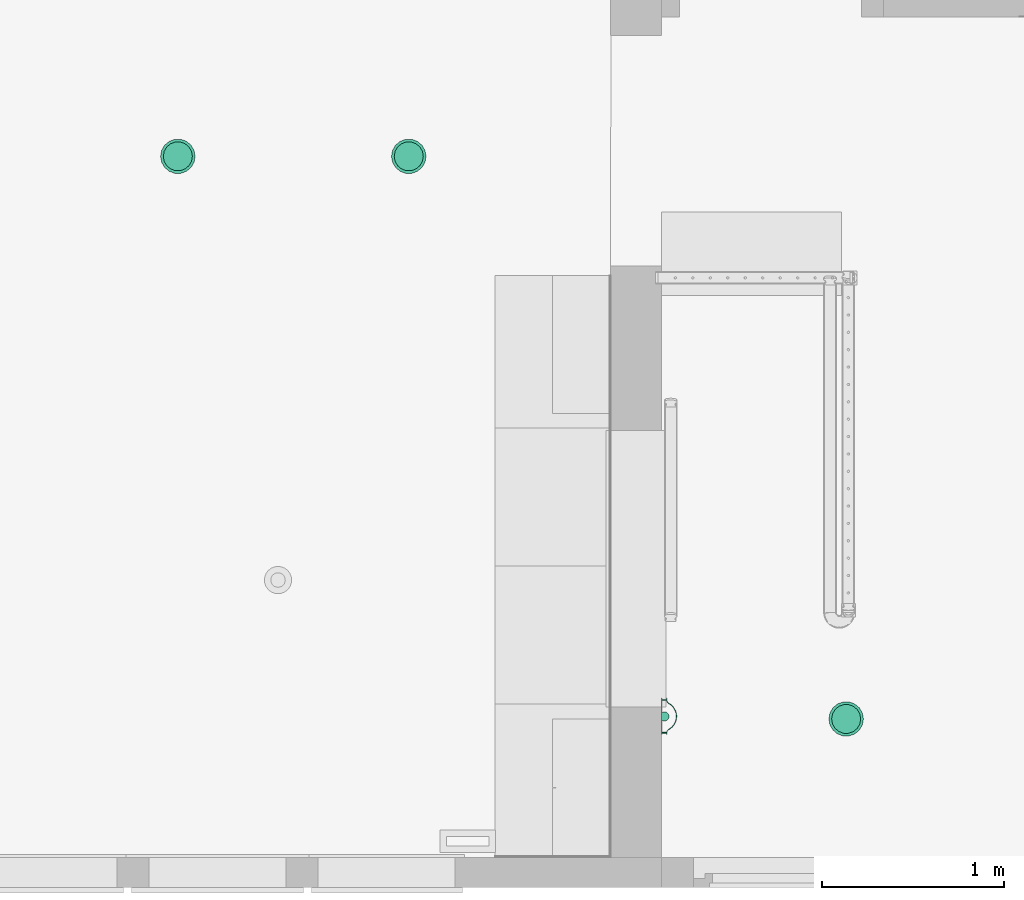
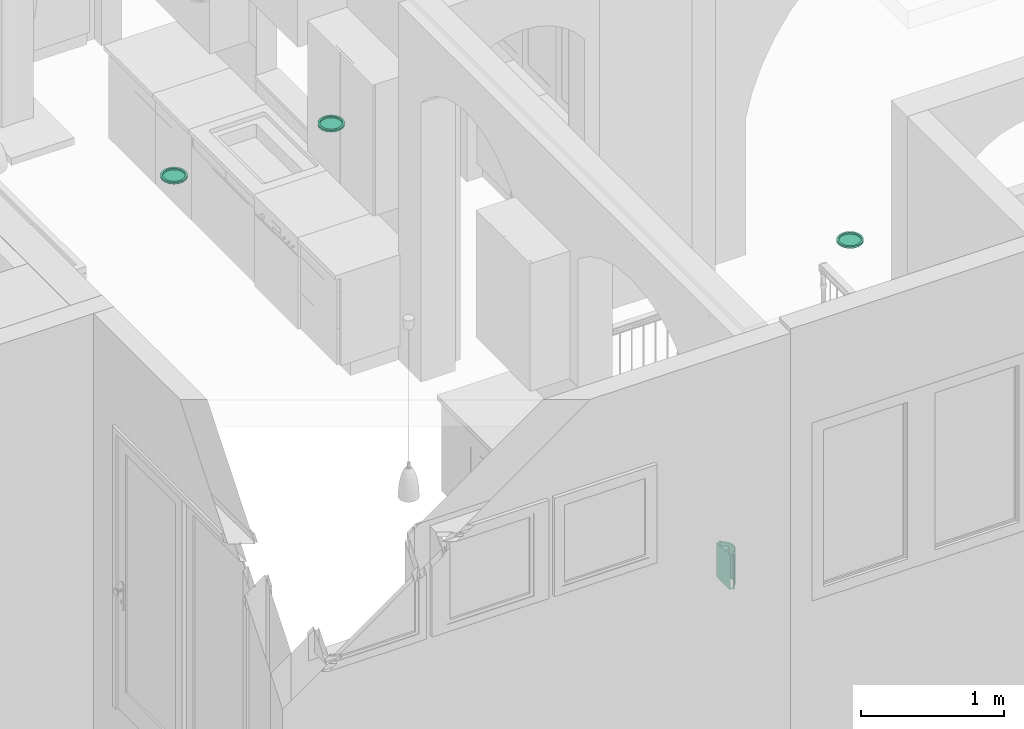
# One storey, part 46 of 77: 4 flow terminals.
"""IFC2X3 building model written with IfcOpenShell, lengths in inches."""

from ifc_helpers import new_model, entity, si_unit, converted_unit, derived_unit, money_unit, direction, frame, origin_with_axes, place, context, subcontext, project, spatial, open_shell, faceted_brep, surface_model, source, transform, mapped, type_object, element, save


model = new_model("IFC2X3")

# Units and contexts
model_context = context("Model", 3, precision=0.000393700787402, world=origin_with_axes(), true_north=direction((0.0, 1.0)))
body_context = subcontext(model_context, "Body", "Model", "MODEL_VIEW")
ifc_project = project(units=[converted_unit("LENGTHUNIT", "INCH", entity("IfcPositiveLengthMeasure", 0.0254), si_unit("LENGTHUNIT", "METRE"), dimensions=[1, 0, 0, 0, 0, 0, 0]), converted_unit("AREAUNIT", "SQUARE_FOOT", entity("IfcPositiveLengthMeasure", 0.09290304), si_unit("AREAUNIT", "SQUARE_METRE"), dimensions=[2, 0, 0, 0, 0, 0, 0]), si_unit("PLANEANGLEUNIT", "RADIAN"), si_unit("SOLIDANGLEUNIT", "STERADIAN"), money_unit("USD"), converted_unit("TIMEUNIT", "Year", entity("IfcTimeMeasure", 31556926.0), si_unit("TIMEUNIT", "SECOND"), dimensions=[0, 0, 1, 0, 0, 0, 0]), si_unit("MASSUNIT", "GRAM", prefix="KILO"), si_unit("THERMODYNAMICTEMPERATUREUNIT", "DEGREE_CELSIUS"), si_unit("LUMINOUSINTENSITYUNIT", "LUMEN"), si_unit("ENERGYUNIT", "JOULE", prefix="MEGA"), derived_unit("THERMALCONDUCTANCEUNIT", [(si_unit("POWERUNIT", "WATT"), 1), (si_unit("LENGTHUNIT", "METRE"), -1), (si_unit("THERMODYNAMICTEMPERATUREUNIT", "KELVIN"), -1)]), derived_unit("SPECIFICHEATCAPACITYUNIT", [(si_unit("ENERGYUNIT", "JOULE"), 1), (si_unit("MASSUNIT", "GRAM", prefix="KILO"), -1), (si_unit("THERMODYNAMICTEMPERATUREUNIT", "KELVIN"), -1)]), derived_unit("MASSDENSITYUNIT", [(si_unit("MASSUNIT", "GRAM", prefix="KILO"), 1), (si_unit("VOLUMEUNIT", "CUBIC_METRE"), -1)])], contexts=[model_context])

# Site, building, storey
site_placement = place(None, origin_with_axes())
site = spatial("IfcSite", under=ifc_project, at=site_placement, Name="Site", CompositionType="ELEMENT")
building_placement = place(site_placement, origin_with_axes())
building = spatial("IfcBuilding", under=site, at=building_placement, Name="Building", CompositionType="ELEMENT")
storey_placement = place(building_placement, frame((0.0, 0.0, 127.952755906), z_axis=(0.0, 0.0, 1.0), x_axis=(1.0, 0.0, 0.0)))
storey = spatial("IfcBuildingStorey", under=building, at=storey_placement, Name="Second Floor", CompositionType="ELEMENT", Elevation=127.953)

# Flow terminals
light_fixture_type_1 = type_object("IfcLightFixtureType", Name="Recessed Spot 25", PredefinedType="NOTDEFINED")
shared_shape_1 = source(origin_with_axes(), body_context, "Body", "SurfaceModel", [
    faceted_brep([(3.74015748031, 0.0, -0.590551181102), (3.51459838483, 1.27920919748, -0.590551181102), (3.51459838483, 1.27920919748, 0.0), (3.74015748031, 0.0, 0.0), (3.51459838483, -1.27920919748, -0.590551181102), (2.86512685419, -2.40412688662, -0.590551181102), (1.87007874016, -3.23907139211, -0.590551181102), (0.649471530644, -3.6833360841, -0.590551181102), (-0.649471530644, -3.6833360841, -0.590551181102), (-1.87007874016, -3.23907139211, -0.590551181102), (-2.86512685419, -2.40412688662, -0.590551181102), (-3.51459838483, -1.27920919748, -0.590551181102), (-3.74015748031, 0.0, -0.590551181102), (-3.51459838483, 1.27920919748, -0.590551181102), (-2.86512685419, 2.40412688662, -0.590551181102), (-1.87007874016, 3.23907139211, -0.590551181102), (-0.649471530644, 3.6833360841, -0.590551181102), (0.649471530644, 3.6833360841, -0.590551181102), (1.87007874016, 3.23907139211, -0.590551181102), (2.86512685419, 2.40412688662, -0.590551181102), (3.14960629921, 0.0, -0.590551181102), (2.95966179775, 1.07722879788, -0.590551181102), (2.41273840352, 2.02452790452, -0.590551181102), (1.57480314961, 2.72763906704, -0.590551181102), (0.546923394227, 3.1017567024, -0.590551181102), (-0.546923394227, 3.1017567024, -0.590551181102), (-1.57480314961, 2.72763906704, -0.590551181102), (-2.41273840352, 2.02452790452, -0.590551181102), (-2.95966179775, 1.07722879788, -0.590551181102), (-3.14960629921, 0.0, -0.590551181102), (-2.95966179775, -1.07722879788, -0.590551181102), (-2.41273840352, -2.02452790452, -0.590551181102), (-1.57480314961, -2.72763906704, -0.590551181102), (-0.546923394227, -3.1017567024, -0.590551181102), (0.546923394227, -3.1017567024, -0.590551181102), (1.57480314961, -2.72763906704, -0.590551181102), (2.41273840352, -2.02452790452, -0.590551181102), (2.95966179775, -1.07722879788, -0.590551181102), (2.86512685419, 2.40412688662, 0.0), (1.87007874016, 3.23907139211, 0.0), (0.649471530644, 3.6833360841, 0.0), (-0.649471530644, 3.6833360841, 0.0), (-1.87007874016, 3.23907139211, 0.0), (-2.86512685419, 2.40412688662, 0.0), (-3.51459838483, 1.27920919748, 0.0), (-3.74015748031, 0.0, 0.0), (-3.51459838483, -1.27920919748, 0.0), (-2.86512685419, -2.40412688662, 0.0), (-1.87007874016, -3.23907139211, 0.0), (-0.649471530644, -3.6833360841, 0.0), (0.649471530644, -3.6833360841, 0.0), (1.87007874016, -3.23907139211, 0.0), (2.86512685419, -2.40412688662, 0.0), (3.51459838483, -1.27920919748, 0.0), (3.14960629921, 0.0, 0.0), (2.95966179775, -1.07722879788, 0.0), (2.41273840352, -2.02452790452, 0.0), (1.57480314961, -2.72763906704, 0.0), (0.546923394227, -3.1017567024, 0.0), (-0.546923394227, -3.1017567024, 0.0), (-1.57480314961, -2.72763906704, 0.0), (-2.41273840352, -2.02452790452, 0.0), (-2.95966179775, -1.07722879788, 0.0), (-3.14960629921, 0.0, 0.0), (-2.95966179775, 1.07722879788, 0.0), (-2.41273840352, 2.02452790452, 0.0), (-1.57480314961, 2.72763906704, 0.0), (-0.546923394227, 3.1017567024, 0.0), (0.546923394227, 3.1017567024, 0.0), (1.57480314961, 2.72763906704, 0.0), (2.41273840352, 2.02452790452, 0.0), (2.95966179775, 1.07722879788, 0.0)], [[[0, 1, 2, 3]], [[0, 4, 5, 6, 7, 8, 9, 10, 11, 12, 13, 14, 15, 16, 17, 18, 19, 1], [20, 21, 22, 23, 24, 25, 26, 27, 28, 29, 30, 31, 32, 33, 34, 35, 36, 37]], [[1, 19, 38, 2]], [[3, 2, 38, 39, 40, 41, 42, 43, 44, 45, 46, 47, 48, 49, 50, 51, 52, 53], [54, 55, 56, 57, 58, 59, 60, 61, 62, 63, 64, 65, 66, 67, 68, 69, 70, 71]], [[4, 0, 3, 53]], [[5, 4, 53, 52]], [[6, 5, 52, 51]], [[7, 6, 51, 50]], [[8, 7, 50, 49]], [[9, 8, 49, 48]], [[10, 9, 48, 47]], [[11, 10, 47, 46]], [[12, 11, 46, 45]], [[13, 12, 45, 44]], [[14, 13, 44, 43]], [[15, 14, 43, 42]], [[16, 15, 42, 41]], [[17, 16, 41, 40]], [[18, 17, 40, 39]], [[19, 18, 39, 38]], [[21, 20, 54, 71]], [[22, 21, 71, 70]], [[23, 22, 70, 69]], [[24, 23, 69, 68]], [[25, 24, 68, 67]], [[26, 25, 67, 66]], [[27, 26, 66, 65]], [[28, 27, 65, 64]], [[29, 28, 64, 63]], [[30, 29, 63, 62]], [[31, 30, 62, 61]], [[32, 31, 61, 60]], [[33, 32, 60, 59]], [[34, 33, 59, 58]], [[35, 34, 58, 57]], [[36, 35, 57, 56]], [[37, 36, 56, 55]], [[20, 37, 55, 54]]]),
    surface_model("IfcShellBasedSurfaceModel", [(3.14960629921, 0.0, -0.527559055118), (2.95966179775, -1.07722879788, -0.527559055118), (2.41273840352, -2.02452790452, -0.527559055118), (1.57480314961, -2.72763906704, -0.527559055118), (0.546923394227, -3.1017567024, -0.527559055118), (-0.546923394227, -3.1017567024, -0.527559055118), (-1.57480314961, -2.72763906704, -0.527559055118), (-2.41273840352, -2.02452790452, -0.527559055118), (-2.95966179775, -1.07722879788, -0.527559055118), (-3.14960629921, 0.0, -0.527559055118), (-2.95966179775, 1.07722879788, -0.527559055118), (-2.41273840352, 2.02452790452, -0.527559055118), (-1.57480314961, 2.72763906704, -0.527559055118), (-0.546923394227, 3.1017567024, -0.527559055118), (0.546923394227, 3.1017567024, -0.527559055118), (1.57480314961, 2.72763906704, -0.527559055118), (2.41273840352, 2.02452790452, -0.527559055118), (2.95966179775, 1.07722879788, -0.527559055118)], [open_shell([[[0, 1, 2, 3, 4, 5, 6, 7, 8, 9, 10, 11, 12, 13, 14, 15, 16, 17]]])]),
])
for number, where, z_axis, x_axis, name in (
    (1, (589.239523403, 171.197689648, 118.503937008), (0.0, 0.0, 1.0), (1.0, 0.0, 0.0), "L-03"),
    (2, (683.950273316, 49.3756762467, 120.094488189), (0.0, 0.0, 1.0), (1.0, 0.0, 0.0), "L-03"),
    (3, (539.239523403, 171.197689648, 118.503937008), (0.0, 0.0, 1.0), (1.0, 0.0, 0.0), "L-03"),
):
    element("IfcFlowTerminal", number, at=place(storey_placement, frame(where, z_axis=z_axis, x_axis=x_axis)), inside=storey, type_object=light_fixture_type_1, Name=name, context=body_context, shape_type="MappedRepresentation", body=[
        mapped(shared_shape_1, transform((0.0, 0.0, 0.0))),
    ])
light_fixture_type_2 = type_object("IfcLightFixtureType", Name="Wall Lamp 25", PredefinedType="NOTDEFINED")
shared_shape_2 = source(origin_with_axes(), body_context, "Body", "Brep", [
    faceted_brep([(-3.93700787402, -1.06299212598, 0.0), (-3.93700787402, -1.06299212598, 11.811023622), (-3.59199112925, -1.06314352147, 11.811023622), (-3.59199112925, -1.06314352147, 0.0), (-3.93700787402, -1.1811023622, 0.0), (-3.93700787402, -1.1811023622, 11.811023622), (-3.54330708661, -1.1811023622, 11.811023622), (-3.38969265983, -1.19623206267, 11.811023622), (-3.24198154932, -1.24103973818, 11.811023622), (-3.10585021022, -1.31380345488, 11.811023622), (-2.98653009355, -1.41172694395, 11.811023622), (-2.66966529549, -1.94556474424, 11.811023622), (-2.25851711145, -2.41069189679, 11.811023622), (-1.76760587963, -2.7906817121, 11.811023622), (-1.2142688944, -3.0721142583, 11.811023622), (-0.618048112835, -3.24505030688, 11.811023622), (0.0, -3.30338235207, 11.811023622), (0.0, -3.14960629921, 11.811023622), (-0.56588522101, -3.09835339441, 11.811023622), (-1.11335337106, -2.94626273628, 11.811023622), (-1.6245867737, -2.6982842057, 11.811023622), (-2.0829470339, -2.3624884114, 11.811023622), (-2.47351654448, -1.94980402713, 11.811023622), (-2.78358398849, -1.47366211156, 11.811023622), (-2.90306916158, -1.32652027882, 11.811023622), (-3.0505358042, -1.20743621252, 11.811023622), (-3.21953891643, -1.12161445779, 11.811023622), (-3.40269225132, -1.07280583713, 11.811023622), (-3.40269225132, -1.07280583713, 0.0), (-3.21953891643, -1.12161445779, 0.0), (-3.0505358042, -1.20743621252, 0.0), (-2.90306916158, -1.32652027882, 0.0), (-2.78358398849, -1.47366211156, 0.0), (-2.47351654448, -1.94980402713, 0.0), (-2.0829470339, -2.3624884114, 0.0), (-1.6245867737, -2.6982842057, 0.0), (-1.11335337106, -2.94626273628, 0.0), (-0.56588522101, -3.09835339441, 0.0), (0.0, -3.14960629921, 0.0), (0.0, -3.30338235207, 0.0), (-0.618048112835, -3.24505030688, 0.0), (-1.2142688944, -3.0721142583, 0.0), (-1.76760587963, -2.7906817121, 0.0), (-2.25851711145, -2.41069189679, 0.0), (-2.66966529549, -1.94556474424, 0.0), (-2.98653009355, -1.41172694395, 0.0), (-3.10585021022, -1.31380345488, 0.0), (-3.24198154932, -1.24103973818, 0.0), (-3.38969265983, -1.19623206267, 0.0), (-3.54330708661, -1.1811023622, 0.0)], [[[0, 1, 2, 3]], [[4, 5, 1, 0]], [[1, 5, 6, 7, 8, 9, 10, 11, 12, 13, 14, 15, 16, 17, 18, 19, 20, 21, 22, 23, 24, 25, 26, 27, 2]], [[3, 2, 27, 28]], [[0, 3, 28, 29, 30, 31, 32, 33, 34, 35, 36, 37, 38, 39, 40, 41, 42, 43, 44, 45, 46, 47, 48, 49, 4]], [[49, 6, 5, 4]], [[48, 7, 6, 49]], [[47, 8, 7, 48]], [[46, 9, 8, 47]], [[45, 10, 9, 46]], [[44, 11, 10, 45]], [[43, 12, 11, 44]], [[42, 13, 12, 43]], [[41, 14, 13, 42]], [[40, 15, 14, 41]], [[39, 16, 15, 40]], [[38, 17, 16, 39]], [[37, 18, 17, 38]], [[36, 19, 18, 37]], [[35, 20, 19, 36]], [[34, 21, 20, 35]], [[33, 22, 21, 34]], [[32, 23, 22, 33]], [[31, 24, 23, 32]], [[30, 25, 24, 31]], [[29, 26, 25, 30]], [[28, 27, 26, 29]]]),
    faceted_brep([(3.93700787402, -1.06299212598, 0.0), (3.59199112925, -1.06314352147, 0.0), (3.59199112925, -1.06314352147, 11.811023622), (3.93700787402, -1.06299212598, 11.811023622), (3.93700787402, -1.1811023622, 0.0), (3.54330708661, -1.1811023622, 0.0), (3.38969265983, -1.19623206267, 0.0), (3.24198154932, -1.24103973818, 0.0), (3.10585021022, -1.31380345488, 0.0), (2.98653009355, -1.41172694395, 0.0), (2.66966529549, -1.94556474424, 0.0), (2.25851711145, -2.41069189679, 0.0), (1.76760587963, -2.7906817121, 0.0), (1.2142688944, -3.0721142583, 0.0), (0.618048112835, -3.24505030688, 0.0), (0.0, -3.30338235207, 0.0), (0.0, -3.14960629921, 0.0), (0.56588522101, -3.09835339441, 0.0), (1.11335337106, -2.94626273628, 0.0), (1.6245867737, -2.6982842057, 0.0), (2.0829470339, -2.3624884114, 0.0), (2.47351654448, -1.94980402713, 0.0), (2.78358398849, -1.47366211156, 0.0), (2.90306916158, -1.32652027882, 0.0), (3.0505358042, -1.20743621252, 0.0), (3.21953891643, -1.12161445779, 0.0), (3.40269225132, -1.07280583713, 0.0), (3.40269225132, -1.07280583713, 11.811023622), (3.21953891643, -1.12161445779, 11.811023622), (3.0505358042, -1.20743621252, 11.811023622), (2.90306916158, -1.32652027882, 11.811023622), (2.78358398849, -1.47366211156, 11.811023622), (2.47351654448, -1.94980402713, 11.811023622), (2.0829470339, -2.3624884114, 11.811023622), (1.6245867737, -2.6982842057, 11.811023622), (1.11335337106, -2.94626273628, 11.811023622), (0.56588522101, -3.09835339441, 11.811023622), (0.0, -3.14960629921, 11.811023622), (0.0, -3.30338235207, 11.811023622), (0.618048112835, -3.24505030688, 11.811023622), (1.2142688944, -3.0721142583, 11.811023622), (1.76760587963, -2.7906817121, 11.811023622), (2.25851711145, -2.41069189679, 11.811023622), (2.66966529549, -1.94556474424, 11.811023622), (2.98653009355, -1.41172694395, 11.811023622), (3.10585021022, -1.31380345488, 11.811023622), (3.24198154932, -1.24103973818, 11.811023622), (3.38969265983, -1.19623206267, 11.811023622), (3.54330708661, -1.1811023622, 11.811023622), (3.93700787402, -1.1811023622, 11.811023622)], [[[0, 1, 2, 3]], [[0, 4, 5, 6, 7, 8, 9, 10, 11, 12, 13, 14, 15, 16, 17, 18, 19, 20, 21, 22, 23, 24, 25, 26, 1]], [[1, 26, 27, 2]], [[3, 2, 27, 28, 29, 30, 31, 32, 33, 34, 35, 36, 37, 38, 39, 40, 41, 42, 43, 44, 45, 46, 47, 48, 49]], [[4, 0, 3, 49]], [[5, 4, 49, 48]], [[6, 5, 48, 47]], [[7, 6, 47, 46]], [[8, 7, 46, 45]], [[9, 8, 45, 44]], [[10, 9, 44, 43]], [[11, 10, 43, 42]], [[12, 11, 42, 41]], [[13, 12, 41, 40]], [[14, 13, 40, 39]], [[15, 14, 39, 38]], [[16, 15, 38, 37]], [[17, 16, 37, 36]], [[18, 17, 36, 35]], [[19, 18, 35, 34]], [[20, 19, 34, 33]], [[21, 20, 33, 32]], [[22, 21, 32, 31]], [[23, 22, 31, 30]], [[24, 23, 30, 29]], [[25, 24, 29, 28]], [[26, 25, 28, 27]]]),
    faceted_brep([(-3.14960629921, 0.0, 0.0), (3.14960629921, 0.0, 0.0), (3.14960629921, -0.0393700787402, 0.0), (-3.14960629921, -0.0393700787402, 0.0), (-3.303220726, 0.0, 0.0151297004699), (-3.45093183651, 0.0, 0.0599373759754), (-3.58706317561, 0.0, 0.132701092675), (-3.70638329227, 0.0, 0.230624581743), (-3.80430678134, 0.0, 0.34994469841), (-3.87707049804, 0.0, 0.486076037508), (-3.92187817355, 0.0, 0.633787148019), (-3.93700787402, 0.0, 0.787401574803), (-3.93700787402, 0.0, 11.0236220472), (-3.92187817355, 0.0, 11.177236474), (-3.87707049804, 0.0, 11.3249475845), (-3.80430678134, 0.0, 11.4610789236), (-3.70638329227, 0.0, 11.5803990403), (-3.58706317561, 0.0, 11.6783225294), (-3.45093183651, 0.0, 11.7510862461), (-3.303220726, 0.0, 11.7958939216), (-3.14960629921, 0.0, 11.811023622), (3.14960629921, 0.0, 11.811023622), (3.303220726, 0.0, 11.7958939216), (3.45093183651, 0.0, 11.7510862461), (3.58706317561, 0.0, 11.6783225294), (3.70638329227, 0.0, 11.5803990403), (3.80430678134, 0.0, 11.4610789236), (3.87707049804, 0.0, 11.3249475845), (3.92187817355, 0.0, 11.177236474), (3.93700787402, 0.0, 11.0236220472), (3.93700787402, 0.0, 0.787401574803), (3.92187817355, 0.0, 0.633787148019), (3.87707049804, 0.0, 0.486076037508), (3.80430678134, 0.0, 0.34994469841), (3.70638329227, 0.0, 0.230624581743), (3.58706317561, 0.0, 0.132701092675), (3.45093183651, 0.0, 0.0599373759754), (3.303220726, 0.0, 0.0151297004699), (3.303220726, -0.0393700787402, 0.0151297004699), (3.45093183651, -0.0393700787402, 0.0599373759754), (3.58706317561, -0.0393700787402, 0.132701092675), (3.70638329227, -0.0393700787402, 0.230624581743), (3.80430678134, -0.0393700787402, 0.34994469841), (3.87707049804, -0.0393700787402, 0.486076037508), (3.92187817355, -0.0393700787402, 0.633787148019), (3.93700787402, -0.0393700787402, 0.787401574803), (3.93700787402, -0.0393700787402, 11.0236220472), (3.92187817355, -0.0393700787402, 11.177236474), (3.87707049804, -0.0393700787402, 11.3249475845), (3.80430678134, -0.0393700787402, 11.4610789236), (3.70638329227, -0.0393700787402, 11.5803990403), (3.58706317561, -0.0393700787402, 11.6783225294), (3.45093183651, -0.0393700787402, 11.7510862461), (3.303220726, -0.0393700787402, 11.7958939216), (3.14960629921, -0.0393700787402, 11.811023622), (-3.14960629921, -0.0393700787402, 11.811023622), (-3.303220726, -0.0393700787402, 11.7958939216), (-3.45093183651, -0.0393700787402, 11.7510862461), (-3.58706317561, -0.0393700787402, 11.6783225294), (-3.70638329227, -0.0393700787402, 11.5803990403), (-3.80430678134, -0.0393700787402, 11.4610789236), (-3.87707049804, -0.0393700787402, 11.3249475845), (-3.92187817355, -0.0393700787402, 11.177236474), (-3.93700787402, -0.0393700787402, 11.0236220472), (-3.93700787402, -0.0393700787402, 0.787401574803), (-3.92187817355, -0.0393700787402, 0.633787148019), (-3.87707049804, -0.0393700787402, 0.486076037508), (-3.80430678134, -0.0393700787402, 0.34994469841), (-3.70638329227, -0.0393700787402, 0.230624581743), (-3.58706317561, -0.0393700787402, 0.132701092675), (-3.45093183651, -0.0393700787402, 0.0599373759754), (-3.303220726, -0.0393700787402, 0.0151297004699)], [[[0, 1, 2, 3]], [[0, 4, 5, 6, 7, 8, 9, 10, 11, 12, 13, 14, 15, 16, 17, 18, 19, 20, 21, 22, 23, 24, 25, 26, 27, 28, 29, 30, 31, 32, 33, 34, 35, 36, 37, 1]], [[1, 37, 38, 2]], [[3, 2, 38, 39, 40, 41, 42, 43, 44, 45, 46, 47, 48, 49, 50, 51, 52, 53, 54, 55, 56, 57, 58, 59, 60, 61, 62, 63, 64, 65, 66, 67, 68, 69, 70, 71]], [[4, 0, 3, 71]], [[5, 4, 71, 70]], [[6, 5, 70, 69]], [[7, 6, 69, 68]], [[8, 7, 68, 67]], [[9, 8, 67, 66]], [[10, 9, 66, 65]], [[11, 10, 65, 64]], [[12, 11, 64, 63]], [[13, 12, 63, 62]], [[14, 13, 62, 61]], [[15, 14, 61, 60]], [[16, 15, 60, 59]], [[17, 16, 59, 58]], [[18, 17, 58, 57]], [[19, 18, 57, 56]], [[20, 19, 56, 55]], [[21, 20, 55, 54]], [[22, 21, 54, 53]], [[23, 22, 53, 52]], [[24, 23, 52, 51]], [[25, 24, 51, 50]], [[26, 25, 50, 49]], [[27, 26, 49, 48]], [[28, 27, 48, 47]], [[29, 28, 47, 46]], [[30, 29, 46, 45]], [[31, 30, 45, 44]], [[32, 31, 44, 43]], [[33, 32, 43, 42]], [[34, 33, 42, 41]], [[35, 34, 41, 40]], [[36, 35, 40, 39]], [[37, 36, 39, 38]]]),
    faceted_brep([(-3.66141732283, -0.0393700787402, 0.393700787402), (-3.66141732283, -1.22047244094, 0.393700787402), (-3.60236220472, -1.22047244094, 0.495987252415), (-3.60236220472, -0.0393700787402, 0.495987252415), (-3.60236220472, -0.0393700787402, 0.291414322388), (-3.60236220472, -1.22047244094, 0.291414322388), (-3.4842519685, -1.22047244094, 0.291414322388), (-3.42519685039, -1.22047244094, 0.393700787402), (-3.4842519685, -1.22047244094, 0.495987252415), (-3.4842519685, -0.0393700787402, 0.495987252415), (-3.42519685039, -0.0393700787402, 0.393700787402), (-3.4842519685, -0.0393700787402, 0.291414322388)], [[[0, 1, 2, 3]], [[4, 5, 1, 0]], [[1, 5, 6, 7, 8, 2]], [[3, 2, 8, 9]], [[0, 3, 9, 10, 11, 4]], [[11, 6, 5, 4]], [[10, 7, 6, 11]], [[9, 8, 7, 10]]]),
    faceted_brep([(3.42519685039, -0.0393700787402, 0.393700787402), (3.42519685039, -1.22047244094, 0.393700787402), (3.4842519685, -1.22047244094, 0.495987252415), (3.4842519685, -0.0393700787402, 0.495987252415), (3.4842519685, -0.0393700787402, 0.291414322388), (3.4842519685, -1.22047244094, 0.291414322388), (3.60236220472, -1.22047244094, 0.291414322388), (3.66141732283, -1.22047244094, 0.393700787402), (3.60236220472, -1.22047244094, 0.495987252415), (3.60236220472, -0.0393700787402, 0.495987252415), (3.66141732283, -0.0393700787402, 0.393700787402), (3.60236220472, -0.0393700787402, 0.291414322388)], [[[0, 1, 2, 3]], [[4, 5, 1, 0]], [[1, 5, 6, 7, 8, 2]], [[3, 2, 8, 9]], [[0, 3, 9, 10, 11, 4]], [[11, 6, 5, 4]], [[10, 7, 6, 11]], [[9, 8, 7, 10]]]),
    faceted_brep([(-3.66141732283, -0.0393700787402, 11.4173228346), (-3.66141732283, -1.22047244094, 11.4173228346), (-3.60236220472, -1.22047244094, 11.5196092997), (-3.60236220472, -0.0393700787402, 11.5196092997), (-3.60236220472, -0.0393700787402, 11.3150363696), (-3.60236220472, -1.22047244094, 11.3150363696), (-3.4842519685, -1.22047244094, 11.3150363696), (-3.42519685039, -1.22047244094, 11.4173228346), (-3.4842519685, -1.22047244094, 11.5196092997), (-3.4842519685, -0.0393700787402, 11.5196092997), (-3.42519685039, -0.0393700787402, 11.4173228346), (-3.4842519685, -0.0393700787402, 11.3150363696)], [[[0, 1, 2, 3]], [[4, 5, 1, 0]], [[1, 5, 6, 7, 8, 2]], [[3, 2, 8, 9]], [[0, 3, 9, 10, 11, 4]], [[11, 6, 5, 4]], [[10, 7, 6, 11]], [[9, 8, 7, 10]]]),
    faceted_brep([(3.42519685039, -0.0393700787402, 11.4173228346), (3.42519685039, -1.22047244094, 11.4173228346), (3.4842519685, -1.22047244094, 11.5196092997), (3.4842519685, -0.0393700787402, 11.5196092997), (3.4842519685, -0.0393700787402, 11.3150363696), (3.4842519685, -1.22047244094, 11.3150363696), (3.60236220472, -1.22047244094, 11.3150363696), (3.66141732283, -1.22047244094, 11.4173228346), (3.60236220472, -1.22047244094, 11.5196092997), (3.60236220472, -0.0393700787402, 11.5196092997), (3.66141732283, -0.0393700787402, 11.4173228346), (3.60236220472, -0.0393700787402, 11.3150363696)], [[[0, 1, 2, 3]], [[4, 5, 1, 0]], [[1, 5, 6, 7, 8, 2]], [[3, 2, 8, 9]], [[0, 3, 9, 10, 11, 4]], [[11, 6, 5, 4]], [[10, 7, 6, 11]], [[9, 8, 7, 10]]]),
    faceted_brep([(0.787401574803, -0.0393700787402, 0.0), (0.787401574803, -0.0393700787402, 0.984251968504), (0.889578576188, -0.208730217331, 0.984251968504), (0.889578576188, -0.208730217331, 0.0), (-0.787401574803, -0.0393700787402, 0.0), (-0.787401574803, -0.0393700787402, 0.984251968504), (-0.889578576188, -0.208730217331, 0.984251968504), (-0.955829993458, -0.39510013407, 0.984251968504), (-0.983480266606, -0.590953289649, 0.984251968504), (-0.9714127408, -0.78838016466, 0.984251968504), (-0.920114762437, -0.979407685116, 0.984251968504), (-0.83165799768, -1.15632121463, 0.984251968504), (-0.709614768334, -1.31197610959, 0.984251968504), (-0.558913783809, -1.44008625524, 0.984251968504), (-0.385641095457, -1.53547793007, 0.984251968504), (-0.196794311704, -1.5942987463, 0.984251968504), (0.0, -1.61417322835, 0.984251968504), (0.196794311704, -1.5942987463, 0.984251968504), (0.385641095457, -1.53547793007, 0.984251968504), (0.558913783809, -1.44008625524, 0.984251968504), (0.709614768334, -1.31197610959, 0.984251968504), (0.83165799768, -1.15632121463, 0.984251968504), (0.920114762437, -0.979407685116, 0.984251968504), (0.9714127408, -0.78838016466, 0.984251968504), (0.983480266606, -0.590953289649, 0.984251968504), (0.955829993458, -0.39510013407, 0.984251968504), (0.955829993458, -0.39510013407, 0.0), (0.983480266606, -0.590953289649, 0.0), (0.9714127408, -0.78838016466, 0.0), (0.920114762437, -0.979407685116, 0.0), (0.83165799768, -1.15632121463, 0.0), (0.709614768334, -1.31197610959, 0.0), (0.558913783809, -1.44008625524, 0.0), (0.385641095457, -1.53547793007, 0.0), (0.196794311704, -1.5942987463, 0.0), (0.0, -1.61417322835, 0.0), (-0.196794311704, -1.5942987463, 0.0), (-0.385641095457, -1.53547793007, 0.0), (-0.558913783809, -1.44008625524, 0.0), (-0.709614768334, -1.31197610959, 0.0), (-0.83165799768, -1.15632121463, 0.0), (-0.920114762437, -0.979407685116, 0.0), (-0.9714127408, -0.78838016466, 0.0), (-0.983480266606, -0.590953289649, 0.0), (-0.955829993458, -0.39510013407, 0.0), (-0.889578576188, -0.208730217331, 0.0)], [[[0, 1, 2, 3]], [[4, 5, 1, 0]], [[1, 5, 6, 7, 8, 9, 10, 11, 12, 13, 14, 15, 16, 17, 18, 19, 20, 21, 22, 23, 24, 25, 2]], [[3, 2, 25, 26]], [[0, 3, 26, 27, 28, 29, 30, 31, 32, 33, 34, 35, 36, 37, 38, 39, 40, 41, 42, 43, 44, 45, 4]], [[45, 6, 5, 4]], [[44, 7, 6, 45]], [[43, 8, 7, 44]], [[42, 9, 8, 43]], [[41, 10, 9, 42]], [[40, 11, 10, 41]], [[39, 12, 11, 40]], [[38, 13, 12, 39]], [[37, 14, 13, 38]], [[36, 15, 14, 37]], [[35, 16, 15, 36]], [[34, 17, 16, 35]], [[33, 18, 17, 34]], [[32, 19, 18, 33]], [[31, 20, 19, 32]], [[30, 21, 20, 31]], [[29, 22, 21, 30]], [[28, 23, 22, 29]], [[27, 24, 23, 28]], [[26, 25, 24, 27]]]),
    faceted_brep([(0.787401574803, -0.0393700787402, 10.8267716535), (0.787401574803, -0.0393700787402, 11.811023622), (0.889578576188, -0.208730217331, 11.811023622), (0.889578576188, -0.208730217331, 10.8267716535), (-0.787401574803, -0.0393700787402, 10.8267716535), (-0.787401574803, -0.0393700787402, 11.811023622), (-0.889578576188, -0.208730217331, 11.811023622), (-0.955829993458, -0.39510013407, 11.811023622), (-0.983480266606, -0.590953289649, 11.811023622), (-0.9714127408, -0.78838016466, 11.811023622), (-0.920114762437, -0.979407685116, 11.811023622), (-0.83165799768, -1.15632121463, 11.811023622), (-0.709614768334, -1.31197610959, 11.811023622), (-0.558913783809, -1.44008625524, 11.811023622), (-0.385641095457, -1.53547793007, 11.811023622), (-0.196794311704, -1.5942987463, 11.811023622), (0.0, -1.61417322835, 11.811023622), (0.196794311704, -1.5942987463, 11.811023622), (0.385641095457, -1.53547793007, 11.811023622), (0.558913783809, -1.44008625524, 11.811023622), (0.709614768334, -1.31197610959, 11.811023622), (0.83165799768, -1.15632121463, 11.811023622), (0.920114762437, -0.979407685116, 11.811023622), (0.9714127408, -0.78838016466, 11.811023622), (0.983480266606, -0.590953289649, 11.811023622), (0.955829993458, -0.39510013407, 11.811023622), (0.955829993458, -0.39510013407, 10.8267716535), (0.983480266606, -0.590953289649, 10.8267716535), (0.9714127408, -0.78838016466, 10.8267716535), (0.920114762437, -0.979407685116, 10.8267716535), (0.83165799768, -1.15632121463, 10.8267716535), (0.709614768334, -1.31197610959, 10.8267716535), (0.558913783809, -1.44008625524, 10.8267716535), (0.385641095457, -1.53547793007, 10.8267716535), (0.196794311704, -1.5942987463, 10.8267716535), (0.0, -1.61417322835, 10.8267716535), (-0.196794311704, -1.5942987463, 10.8267716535), (-0.385641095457, -1.53547793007, 10.8267716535), (-0.558913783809, -1.44008625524, 10.8267716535), (-0.709614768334, -1.31197610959, 10.8267716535), (-0.83165799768, -1.15632121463, 10.8267716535), (-0.920114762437, -0.979407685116, 10.8267716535), (-0.9714127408, -0.78838016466, 10.8267716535), (-0.983480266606, -0.590953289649, 10.8267716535), (-0.955829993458, -0.39510013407, 10.8267716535), (-0.889578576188, -0.208730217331, 10.8267716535)], [[[0, 1, 2, 3]], [[4, 5, 1, 0]], [[1, 5, 6, 7, 8, 9, 10, 11, 12, 13, 14, 15, 16, 17, 18, 19, 20, 21, 22, 23, 24, 25, 2]], [[3, 2, 25, 26]], [[0, 3, 26, 27, 28, 29, 30, 31, 32, 33, 34, 35, 36, 37, 38, 39, 40, 41, 42, 43, 44, 45, 4]], [[45, 6, 5, 4]], [[44, 7, 6, 45]], [[43, 8, 7, 44]], [[42, 9, 8, 43]], [[41, 10, 9, 42]], [[40, 11, 10, 41]], [[39, 12, 11, 40]], [[38, 13, 12, 39]], [[37, 14, 13, 38]], [[36, 15, 14, 37]], [[35, 16, 15, 36]], [[34, 17, 16, 35]], [[33, 18, 17, 34]], [[32, 19, 18, 33]], [[31, 20, 19, 32]], [[30, 21, 20, 31]], [[29, 22, 21, 30]], [[28, 23, 22, 29]], [[27, 24, 23, 28]], [[26, 25, 24, 27]]]),
    faceted_brep([(0.787401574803, -0.0393700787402, 0.984251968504), (0.787401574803, -0.0393700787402, 10.8267716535), (0.889578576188, -0.208730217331, 10.8267716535), (0.889578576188, -0.208730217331, 0.984251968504), (-0.787401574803, -0.0393700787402, 0.984251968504), (-0.787401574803, -0.0393700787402, 10.8267716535), (-0.889578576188, -0.208730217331, 10.8267716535), (-0.955829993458, -0.39510013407, 10.8267716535), (-0.983480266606, -0.590953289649, 10.8267716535), (-0.9714127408, -0.78838016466, 10.8267716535), (-0.920114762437, -0.979407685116, 10.8267716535), (-0.83165799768, -1.15632121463, 10.8267716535), (-0.709614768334, -1.31197610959, 10.8267716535), (-0.558913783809, -1.44008625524, 10.8267716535), (-0.385641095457, -1.53547793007, 10.8267716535), (-0.196794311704, -1.5942987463, 10.8267716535), (0.0, -1.61417322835, 10.8267716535), (0.196794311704, -1.5942987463, 10.8267716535), (0.385641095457, -1.53547793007, 10.8267716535), (0.558913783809, -1.44008625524, 10.8267716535), (0.709614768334, -1.31197610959, 10.8267716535), (0.83165799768, -1.15632121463, 10.8267716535), (0.920114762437, -0.979407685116, 10.8267716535), (0.9714127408, -0.78838016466, 10.8267716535), (0.983480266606, -0.590953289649, 10.8267716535), (0.955829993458, -0.39510013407, 10.8267716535), (0.955829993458, -0.39510013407, 0.984251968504), (0.983480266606, -0.590953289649, 0.984251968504), (0.9714127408, -0.78838016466, 0.984251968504), (0.920114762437, -0.979407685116, 0.984251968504), (0.83165799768, -1.15632121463, 0.984251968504), (0.709614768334, -1.31197610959, 0.984251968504), (0.558913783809, -1.44008625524, 0.984251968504), (0.385641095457, -1.53547793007, 0.984251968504), (0.196794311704, -1.5942987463, 0.984251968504), (0.0, -1.61417322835, 0.984251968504), (-0.196794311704, -1.5942987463, 0.984251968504), (-0.385641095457, -1.53547793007, 0.984251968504), (-0.558913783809, -1.44008625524, 0.984251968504), (-0.709614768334, -1.31197610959, 0.984251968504), (-0.83165799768, -1.15632121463, 0.984251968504), (-0.920114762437, -0.979407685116, 0.984251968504), (-0.9714127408, -0.78838016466, 0.984251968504), (-0.983480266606, -0.590953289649, 0.984251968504), (-0.955829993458, -0.39510013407, 0.984251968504), (-0.889578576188, -0.208730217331, 0.984251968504)], [[[0, 1, 2, 3]], [[4, 5, 1, 0]], [[1, 5, 6, 7, 8, 9, 10, 11, 12, 13, 14, 15, 16, 17, 18, 19, 20, 21, 22, 23, 24, 25, 2]], [[3, 2, 25, 26]], [[0, 3, 26, 27, 28, 29, 30, 31, 32, 33, 34, 35, 36, 37, 38, 39, 40, 41, 42, 43, 44, 45, 4]], [[45, 6, 5, 4]], [[44, 7, 6, 45]], [[43, 8, 7, 44]], [[42, 9, 8, 43]], [[41, 10, 9, 42]], [[40, 11, 10, 41]], [[39, 12, 11, 40]], [[38, 13, 12, 39]], [[37, 14, 13, 38]], [[36, 15, 14, 37]], [[35, 16, 15, 36]], [[34, 17, 16, 35]], [[33, 18, 17, 34]], [[32, 19, 18, 33]], [[31, 20, 19, 32]], [[30, 21, 20, 31]], [[29, 22, 21, 30]], [[28, 23, 22, 29]], [[27, 24, 23, 28]], [[26, 25, 24, 27]]]),
])
flow_terminal_placement = place(storey_placement, frame((643.989643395, 49.9194402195, 17.9133858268), z_axis=(0.0, 0.0, 1.0), x_axis=(0.0, 1.0, 0.0)))
element("IfcFlowTerminal", 4, at=flow_terminal_placement, inside=storey, type_object=light_fixture_type_2, Name="L-17", context=body_context, shape_type="MappedRepresentation", body=[
    mapped(shared_shape_2, transform((0.0, 0.0, 0.0))),
])

save(model, "model.ifc")
